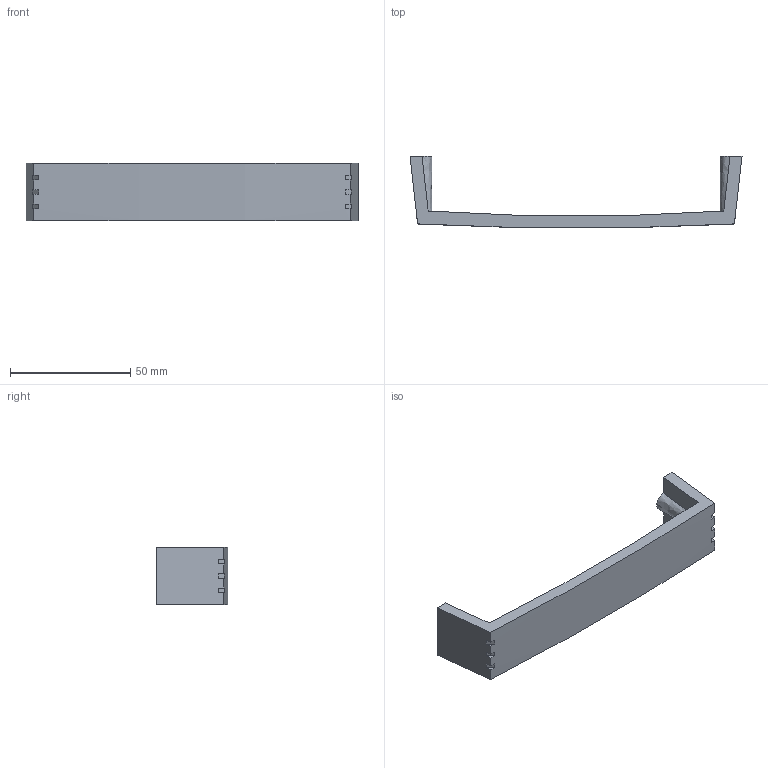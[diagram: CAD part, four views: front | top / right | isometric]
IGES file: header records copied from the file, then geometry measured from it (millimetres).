
Start section: Data from Parasolid IGES Translator 15.0.47, Copyright(c) 2006 Siemens P LM Software. All Rights Reserved.
Global section: file name: 9080833.igs; native system:  By UGS Corp.; preprocessor: XPlus GENERIC/IGES 3.0; author: Noname; organization: Noname; date: 20140122.102249; units: millimetre
Bounding box: 138 x 29.8 x 24 mm (x, y, z)
Surface area: 11023.6 mm2 (no closed solid volume)
Topology: 0 solids, 0 shells, 36 faces, 192 edges, 190 vertices
Faces by surface type: extrusion 30, revolution 6
